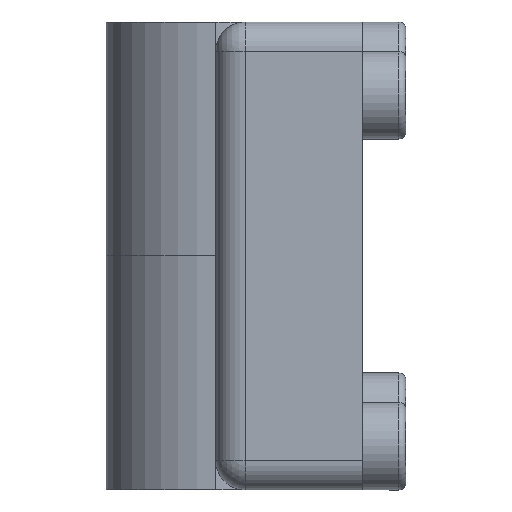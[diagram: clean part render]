
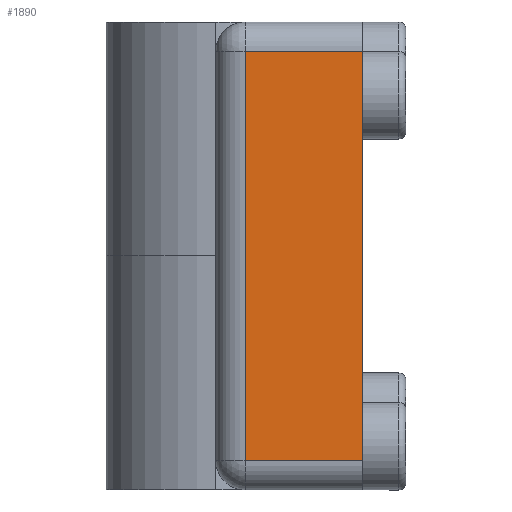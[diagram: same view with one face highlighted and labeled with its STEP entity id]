
A CAD part, left-side view. The second image highlights one B-rep face of the part: STEP entity #1890.
In plain terms, the highlighted planar face has unit normal (-1, 0, 0).
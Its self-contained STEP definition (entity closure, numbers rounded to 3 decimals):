
#40 = EDGE_CURVE ( 'NONE', #1284, #697, #1232, .T. ) ;
#137 = ORIENTED_EDGE ( 'NONE', *, *, #1290, .T. ) ;
#217 = ORIENTED_EDGE ( 'NONE', *, *, #1065, .T. ) ;
#275 = CARTESIAN_POINT ( 'NONE',  ( -19.84, 1.547, 18. ) ) ;
#697 = VERTEX_POINT ( 'NONE', #1418 ) ;
#745 = DIRECTION ( 'NONE',  ( 0., 0., -1. ) ) ;
#796 = VERTEX_POINT ( 'NONE', #893 ) ;
#802 = DIRECTION ( 'NONE',  ( 0., 1., 0. ) ) ;
#893 = CARTESIAN_POINT ( 'NONE',  ( -19.84, 1.547, 46. ) ) ;
#959 = EDGE_LOOP ( 'NONE', ( #1343, #137, #1323, #217 ) ) ;
#990 = CARTESIAN_POINT ( 'NONE',  ( -19.84, -6.453, 48. ) ) ;
#1043 = DIRECTION ( 'NONE',  ( 1., 0., 0. ) ) ;
#1065 = EDGE_CURVE ( 'NONE', #1931, #697, #2197, .T. ) ;
#1208 = DIRECTION ( 'NONE',  ( 0., 1., 0. ) ) ;
#1232 = LINE ( 'NONE', #990, #1754 ) ;
#1276 = VECTOR ( 'NONE', #1526, 1000. ) ;
#1284 = VERTEX_POINT ( 'NONE', #1679 ) ;
#1288 = CARTESIAN_POINT ( 'NONE',  ( -19.84, 3.547, 48. ) ) ;
#1290 = EDGE_CURVE ( 'NONE', #1284, #796, #1908, .T. ) ;
#1323 = ORIENTED_EDGE ( 'NONE', *, *, #2051, .T. ) ;
#1343 = ORIENTED_EDGE ( 'NONE', *, *, #40, .F. ) ;
#1418 = CARTESIAN_POINT ( 'NONE',  ( -19.84, -6.453, 18. ) ) ;
#1443 = CARTESIAN_POINT ( 'NONE',  ( -19.84, 3.547, 46. ) ) ;
#1521 = PLANE ( 'NONE',  #1792 ) ;
#1526 = DIRECTION ( 'NONE',  ( 0., -1., 0. ) ) ;
#1592 = DIRECTION ( 'NONE',  ( 0., 0., -1. ) ) ;
#1676 = FACE_OUTER_BOUND ( 'NONE', #959, .T. ) ;
#1679 = CARTESIAN_POINT ( 'NONE',  ( -19.84, -6.453, 46. ) ) ;
#1754 = VECTOR ( 'NONE', #745, 1000. ) ;
#1758 = CARTESIAN_POINT ( 'NONE',  ( -19.84, 3.547, 18. ) ) ;
#1792 = AXIS2_PLACEMENT_3D ( 'NONE', #1288, #1043, #802 ) ;
#1808 = VECTOR ( 'NONE', #1592, 1000. ) ;
#1828 = CARTESIAN_POINT ( 'NONE',  ( -19.84, 1.547, 48. ) ) ;
#1890 = ADVANCED_FACE ( 'NONE', ( #1676 ), #1521, .F. ) ;
#1908 = LINE ( 'NONE', #1443, #1917 ) ;
#1917 = VECTOR ( 'NONE', #1208, 1000. ) ;
#1931 = VERTEX_POINT ( 'NONE', #275 ) ;
#2045 = LINE ( 'NONE', #1828, #1808 ) ;
#2051 = EDGE_CURVE ( 'NONE', #796, #1931, #2045, .T. ) ;
#2197 = LINE ( 'NONE', #1758, #1276 ) ;
